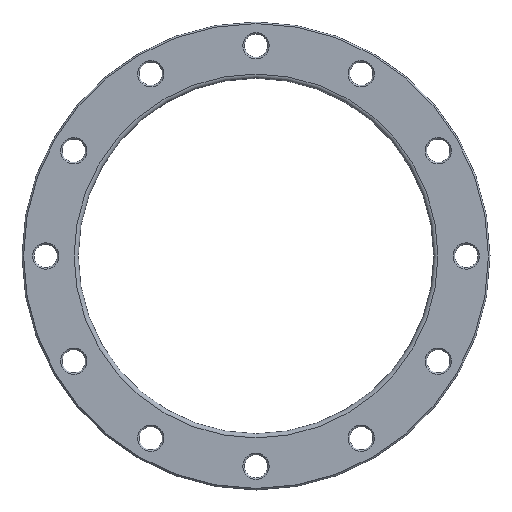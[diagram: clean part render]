
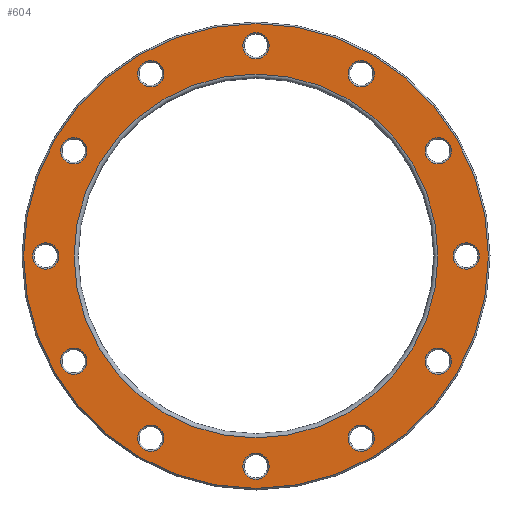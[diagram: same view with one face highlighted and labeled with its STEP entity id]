
A CAD part, front view. The second image highlights one B-rep face of the part: STEP entity #604.
In plain terms, the highlighted planar face has unit normal (0, -1, 0).
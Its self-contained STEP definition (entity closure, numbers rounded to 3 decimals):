
#23=PLANE('',#712);
#134=ORIENTED_EDGE('',*,*,#213,.T.);
#135=ORIENTED_EDGE('',*,*,#214,.T.);
#136=ORIENTED_EDGE('',*,*,#164,.T.);
#137=ORIENTED_EDGE('',*,*,#168,.T.);
#138=ORIENTED_EDGE('',*,*,#172,.T.);
#139=ORIENTED_EDGE('',*,*,#176,.T.);
#140=ORIENTED_EDGE('',*,*,#180,.T.);
#141=ORIENTED_EDGE('',*,*,#184,.T.);
#142=ORIENTED_EDGE('',*,*,#188,.T.);
#143=ORIENTED_EDGE('',*,*,#192,.T.);
#144=ORIENTED_EDGE('',*,*,#196,.T.);
#145=ORIENTED_EDGE('',*,*,#200,.T.);
#146=ORIENTED_EDGE('',*,*,#204,.T.);
#147=ORIENTED_EDGE('',*,*,#215,.T.);
#164=EDGE_CURVE('',#220,#220,#276,.T.);
#168=EDGE_CURVE('',#224,#224,#280,.T.);
#172=EDGE_CURVE('',#228,#228,#284,.T.);
#176=EDGE_CURVE('',#232,#232,#288,.T.);
#180=EDGE_CURVE('',#236,#236,#292,.T.);
#184=EDGE_CURVE('',#240,#240,#296,.T.);
#188=EDGE_CURVE('',#244,#244,#300,.T.);
#192=EDGE_CURVE('',#248,#248,#304,.T.);
#196=EDGE_CURVE('',#252,#252,#308,.T.);
#200=EDGE_CURVE('',#256,#256,#312,.T.);
#204=EDGE_CURVE('',#260,#260,#316,.T.);
#213=EDGE_CURVE('',#269,#269,#325,.F.);
#214=EDGE_CURVE('',#270,#270,#326,.T.);
#215=EDGE_CURVE('',#271,#271,#327,.T.);
#220=VERTEX_POINT('',#935);
#224=VERTEX_POINT('',#946);
#228=VERTEX_POINT('',#957);
#232=VERTEX_POINT('',#968);
#236=VERTEX_POINT('',#979);
#240=VERTEX_POINT('',#990);
#244=VERTEX_POINT('',#1001);
#248=VERTEX_POINT('',#1012);
#252=VERTEX_POINT('',#1023);
#256=VERTEX_POINT('',#1034);
#260=VERTEX_POINT('',#1045);
#269=VERTEX_POINT('',#1068);
#270=VERTEX_POINT('',#1070);
#271=VERTEX_POINT('',#1072);
#276=CIRCLE('',#629,12.5);
#280=CIRCLE('',#636,12.5);
#284=CIRCLE('',#643,12.5);
#288=CIRCLE('',#650,12.5);
#292=CIRCLE('',#657,12.5);
#296=CIRCLE('',#664,12.5);
#300=CIRCLE('',#671,12.5);
#304=CIRCLE('',#678,12.5);
#308=CIRCLE('',#685,12.5);
#312=CIRCLE('',#692,12.5);
#316=CIRCLE('',#699,12.5);
#325=CIRCLE('',#713,221.);
#326=CIRCLE('',#714,173.);
#327=CIRCLE('',#715,12.5);
#414=EDGE_LOOP('',(#134));
#415=EDGE_LOOP('',(#135));
#416=EDGE_LOOP('',(#136));
#417=EDGE_LOOP('',(#137));
#418=EDGE_LOOP('',(#138));
#419=EDGE_LOOP('',(#139));
#420=EDGE_LOOP('',(#140));
#421=EDGE_LOOP('',(#141));
#422=EDGE_LOOP('',(#142));
#423=EDGE_LOOP('',(#143));
#424=EDGE_LOOP('',(#144));
#425=EDGE_LOOP('',(#145));
#426=EDGE_LOOP('',(#146));
#427=EDGE_LOOP('',(#147));
#526=FACE_BOUND('',#414,.T.);
#527=FACE_BOUND('',#415,.T.);
#528=FACE_BOUND('',#416,.T.);
#529=FACE_BOUND('',#417,.T.);
#530=FACE_BOUND('',#418,.T.);
#531=FACE_BOUND('',#419,.T.);
#532=FACE_BOUND('',#420,.T.);
#533=FACE_BOUND('',#421,.T.);
#534=FACE_BOUND('',#422,.T.);
#535=FACE_BOUND('',#423,.T.);
#536=FACE_BOUND('',#424,.T.);
#537=FACE_BOUND('',#425,.T.);
#538=FACE_BOUND('',#426,.T.);
#539=FACE_BOUND('',#427,.T.);
#604=ADVANCED_FACE('',(#526,#527,#528,#529,#530,#531,#532,#533,#534,#535,
#536,#537,#538,#539),#23,.F.);
#629=AXIS2_PLACEMENT_3D('',#934,#735,#736);
#636=AXIS2_PLACEMENT_3D('',#945,#749,#750);
#643=AXIS2_PLACEMENT_3D('',#956,#763,#764);
#650=AXIS2_PLACEMENT_3D('',#967,#777,#778);
#657=AXIS2_PLACEMENT_3D('',#978,#791,#792);
#664=AXIS2_PLACEMENT_3D('',#989,#805,#806);
#671=AXIS2_PLACEMENT_3D('',#1000,#819,#820);
#678=AXIS2_PLACEMENT_3D('',#1011,#833,#834);
#685=AXIS2_PLACEMENT_3D('',#1022,#847,#848);
#692=AXIS2_PLACEMENT_3D('',#1033,#861,#862);
#699=AXIS2_PLACEMENT_3D('',#1044,#875,#876);
#712=AXIS2_PLACEMENT_3D('',#1066,#901,#902);
#713=AXIS2_PLACEMENT_3D('',#1067,#903,#904);
#714=AXIS2_PLACEMENT_3D('',#1069,#905,#906);
#715=AXIS2_PLACEMENT_3D('',#1071,#907,#908);
#735=DIRECTION('',(0.,1.,0.));
#736=DIRECTION('',(0.866,0.,0.5));
#749=DIRECTION('',(0.,1.,0.));
#750=DIRECTION('',(0.5,0.,0.866));
#763=DIRECTION('',(0.,1.,0.));
#764=DIRECTION('',(0.,0.,1.));
#777=DIRECTION('',(0.,1.,0.));
#778=DIRECTION('',(-0.5,0.,0.866));
#791=DIRECTION('',(0.,1.,0.));
#792=DIRECTION('',(-0.866,0.,0.5));
#805=DIRECTION('',(0.,1.,0.));
#806=DIRECTION('',(-1.,0.,0.));
#819=DIRECTION('',(0.,1.,0.));
#820=DIRECTION('',(-0.866,0.,-0.5));
#833=DIRECTION('',(0.,1.,0.));
#834=DIRECTION('',(-0.5,0.,-0.866));
#847=DIRECTION('',(0.,1.,0.));
#848=DIRECTION('',(0.,0.,-1.));
#861=DIRECTION('',(0.,1.,0.));
#862=DIRECTION('',(0.5,0.,-0.866));
#875=DIRECTION('',(0.,1.,0.));
#876=DIRECTION('',(0.866,0.,-0.5));
#901=DIRECTION('',(0.,1.,0.));
#902=DIRECTION('',(0.,0.,1.));
#903=DIRECTION('',(0.,1.,0.));
#904=DIRECTION('',(0.,0.,1.));
#905=DIRECTION('',(0.,1.,0.));
#906=DIRECTION('',(0.,0.,1.));
#907=DIRECTION('',(0.,1.,0.));
#908=DIRECTION('',(1.,0.,0.));
#934=CARTESIAN_POINT('',(-100.,0.,173.205));
#935=CARTESIAN_POINT('',(-89.175,0.,179.455));
#945=CARTESIAN_POINT('',(-173.205,0.,100.));
#946=CARTESIAN_POINT('',(-166.955,0.,110.825));
#956=CARTESIAN_POINT('',(-200.,0.,0.));
#957=CARTESIAN_POINT('',(-200.,0.,12.5));
#967=CARTESIAN_POINT('',(-173.205,0.,-100.));
#968=CARTESIAN_POINT('',(-179.455,0.,-89.175));
#978=CARTESIAN_POINT('',(-100.,0.,-173.205));
#979=CARTESIAN_POINT('',(-110.825,0.,-166.955));
#989=CARTESIAN_POINT('',(0.,0.,-200.));
#990=CARTESIAN_POINT('',(-12.5,0.,-200.));
#1000=CARTESIAN_POINT('',(100.,0.,-173.205));
#1001=CARTESIAN_POINT('',(89.175,0.,-179.455));
#1011=CARTESIAN_POINT('',(173.205,0.,-100.));
#1012=CARTESIAN_POINT('',(166.955,0.,-110.825));
#1022=CARTESIAN_POINT('',(200.,0.,0.));
#1023=CARTESIAN_POINT('',(200.,0.,-12.5));
#1033=CARTESIAN_POINT('',(173.205,0.,100.));
#1034=CARTESIAN_POINT('',(179.455,0.,89.175));
#1044=CARTESIAN_POINT('',(100.,0.,173.205));
#1045=CARTESIAN_POINT('',(110.825,0.,166.955));
#1066=CARTESIAN_POINT('',(0.,0.,0.));
#1067=CARTESIAN_POINT('',(0.,0.,0.));
#1068=CARTESIAN_POINT('',(0.,0.,221.));
#1069=CARTESIAN_POINT('',(0.,0.,0.));
#1070=CARTESIAN_POINT('',(0.,0.,173.));
#1071=CARTESIAN_POINT('',(0.,0.,200.));
#1072=CARTESIAN_POINT('',(12.5,0.,200.));
